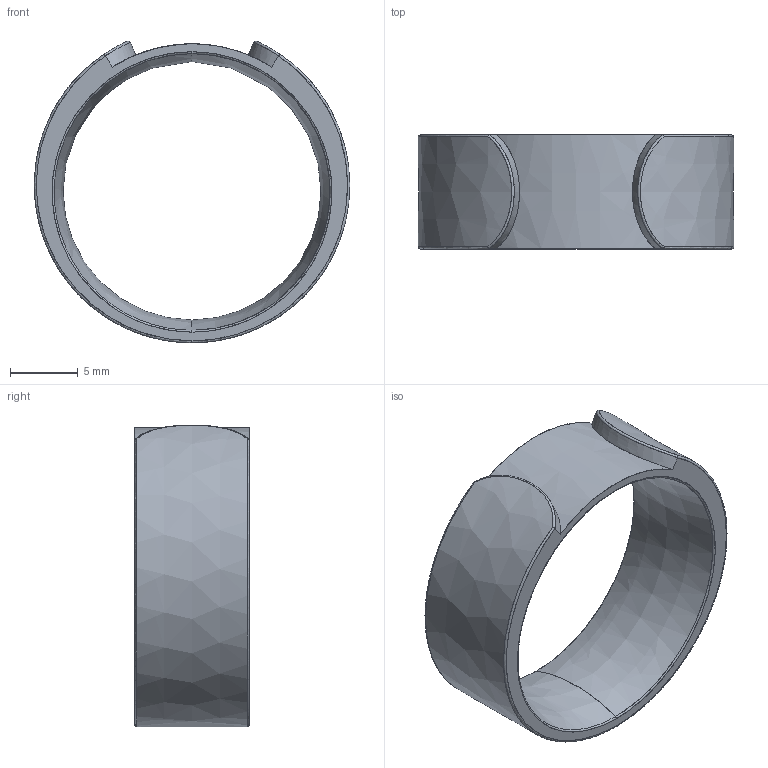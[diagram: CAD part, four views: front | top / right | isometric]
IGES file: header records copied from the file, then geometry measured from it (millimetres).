
Global section: file name: C:\Users\a\Desktop\; native system: Rhinoceros ( Aug 10 2015 ); preprocessor: Trout Lake IGES 012 Aug 10 2015; date: 210705.053541; units: millimetre
Bounding box: 23.35 x 8.45 x 22.34 mm (x, y, z)
Surface area: 1314.4 mm2 (no closed solid volume)
Topology: 0 solids, 0 shells, 19 faces, 229 edges, 229 vertices
Faces by surface type: bspline 19
